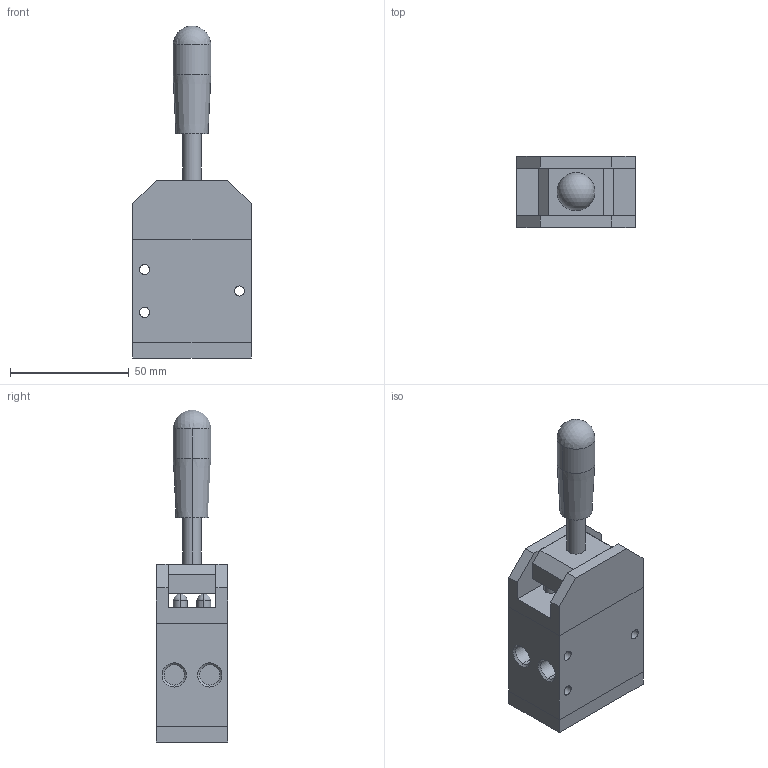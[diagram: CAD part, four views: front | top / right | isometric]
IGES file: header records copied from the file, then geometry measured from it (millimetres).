
Global section: file name: No Iges File Name specified; native system: AutoDesk Inventor R11.0; preprocessor: AutoDesk Inventor Iges Exporter R11.0; author: No Author specified; organization: No Organization specified; date: 20061219.114429; units: millimetre
Bounding box: 50 x 30 x 139.94 mm (x, y, z)
Volume: 105388.2 mm3; surface area: 23422.7 mm2
Topology: 2 solids, 2 shells, 90 faces, 212 edges, 132 vertices
Faces by surface type: plane 38, bspline 25, revolution 12, cylinder 8, sphere 5, cone 2
